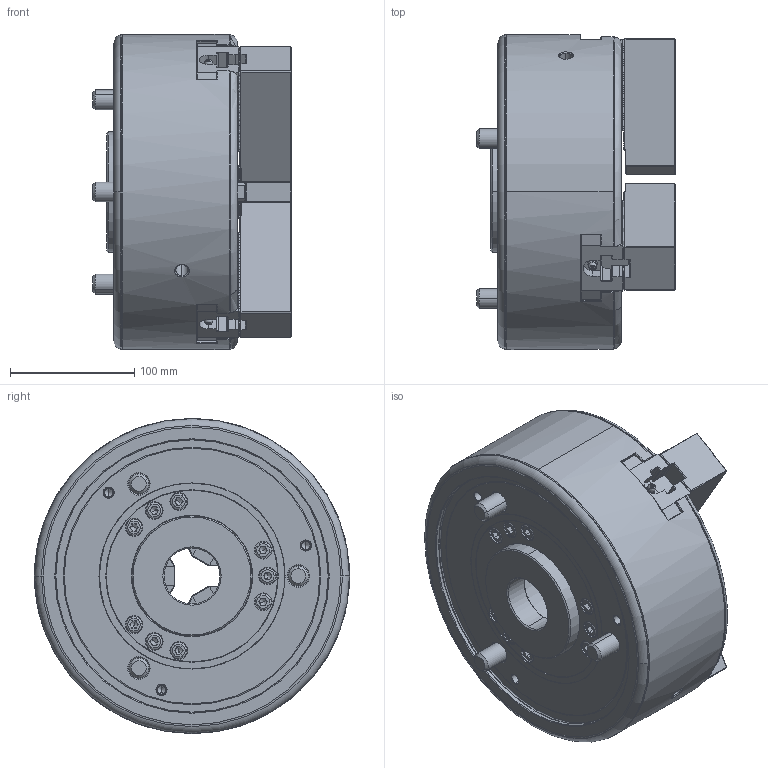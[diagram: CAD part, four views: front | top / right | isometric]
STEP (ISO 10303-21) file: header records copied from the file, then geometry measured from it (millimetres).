
FILE_DESCRIPTION (( 'STEP AP214' ), '1' );
FILE_NAME ('BR10-OC.STEP', '2020-05-25T03:11:12', ( '' ), ( '' ), 'SwSTEP 2.0', 'SolidWorks 2017', '' );
FILE_SCHEMA (( 'AUTOMOTIVE_DESIGN' ));
Length unit declared in the file: millimetre
Products named in the file (5): Part5^BR10-Nishi06 クミタテ; Bアナツキ M12×30; BR10-Nishi05 Plus-Tナット改1_61P417262-1 B-210 Tﾅｯﾄ-ﾃﾞﾌｫﾙﾄ; P31633-7 SB10B1 ソフトジョー_ﾃﾞﾌｫﾙﾄ(外観用); BR10-OC
Assembly tree (13 placements, depth 2):
  BR10-OC
    P31633-7 SB10B1 ソフトジョー_ﾃﾞﾌｫﾙﾄ(外観用)  x3
    BR10-Nishi05 Plus-Tナット改1_61P417262-1 B-210 Tﾅｯﾄ-ﾃﾞﾌｫﾙﾄ  x3
    Bアナツキ M12×30  x6
    Part5^BR10-Nishi06 クミタテ
Bounding box: 160.2 x 254 x 254 mm (x, y, z)
Volume: 4870005.3 mm3; surface area: 409119 mm2
Topology: 13 solids, 27 shells, 4020 faces, 11033 edges, 7136 vertices
Faces by surface type: plane 3056, cylinder 418, cone 326, bspline 120, torus 86, sphere 14
Entity records: 98372 total; most frequent: CARTESIAN_POINT 22966, ORIENTED_EDGE 16220, DIRECTION 14669, EDGE_CURVE 8110, LINE 6343, VECTOR 6343, VERTEX_POINT 5264, AXIS2_PLACEMENT_3D 4163
